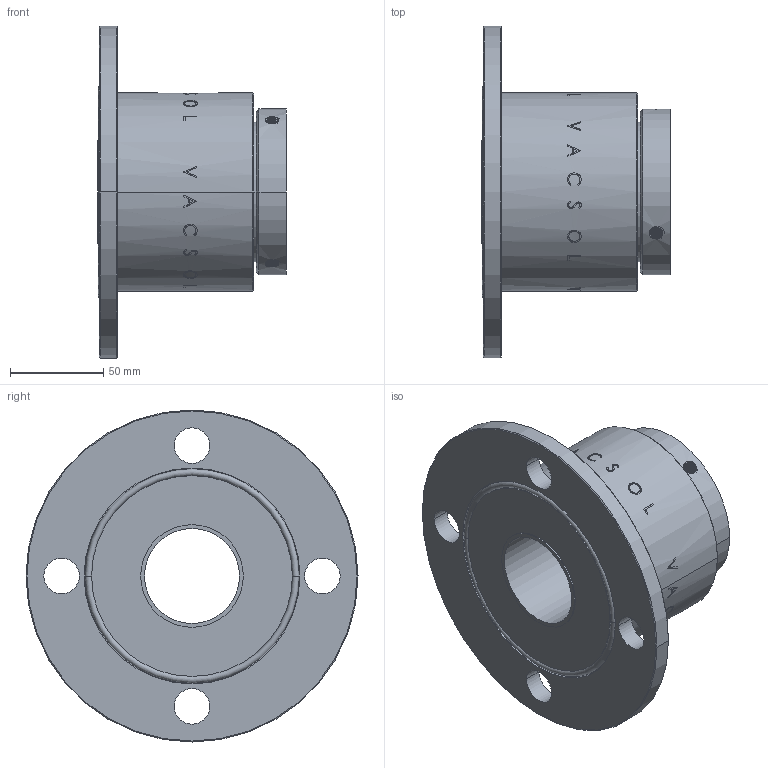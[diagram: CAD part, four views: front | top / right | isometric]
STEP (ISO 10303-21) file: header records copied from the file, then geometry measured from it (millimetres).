
FILE_DESCRIPTION(/* description */ (''),/* implementation_level */ '2;1');
FILE_NAME(/* name */ '64050.step',/* time_stamp */ '2018-08-25T14:28:36+08:00',/* author */ (''),/* organization */ (''),/* preprocessor_version */ 'ST-DEVELOPER v16',/* originating_system */ 'SIEMENS PLM Software NX 10.0',/* authorisation */ '');
FILE_SCHEMA (('AUTOMOTIVE_DESIGN { 1 0 10303 214 3 1 1 1 }'));
Products named in the file (1): 64050_step
Bounding box: 100.74 x 177.8 x 177.8 mm (x, y, z)
Volume: 771994.4 mm3; surface area: 113823.1 mm2
Topology: 2 solids, 2 shells, 406 faces, 1108 edges, 735 vertices
Faces by surface type: cylinder 193, bspline 150, plane 51, cone 8, torus 4
Full cylindrical faces by diameter (mm): 50.85 x1, 55 x1
Entity records: 41733 total; most frequent: CARTESIAN_POINT 33496, ORIENTED_EDGE 2216, EDGE_CURVE 1108, DIRECTION 965, VERTEX_POINT 737, B_SPLINE_CURVE_WITH_KNOTS 464, EDGE_LOOP 455, ADVANCED_FACE 406
